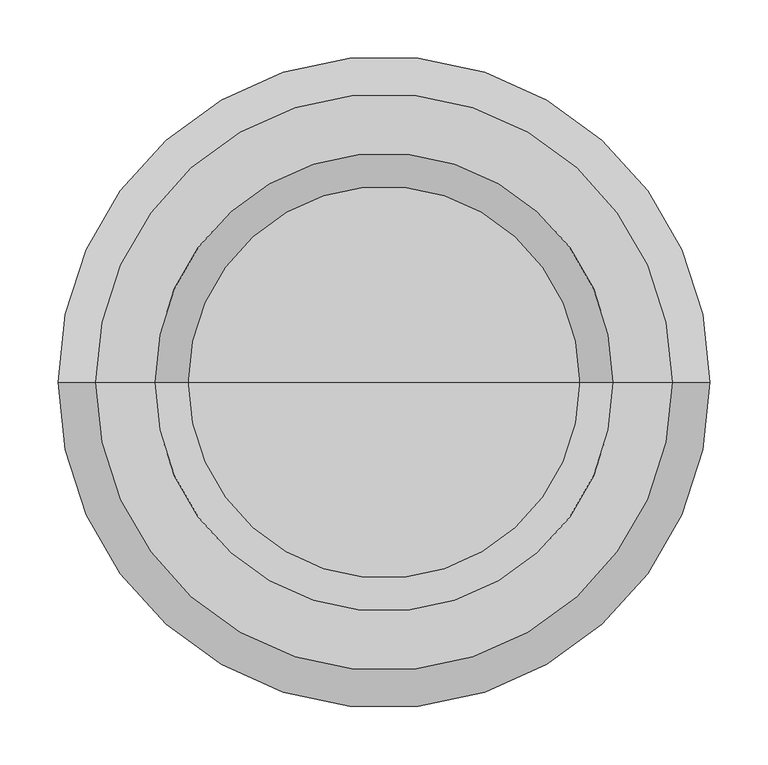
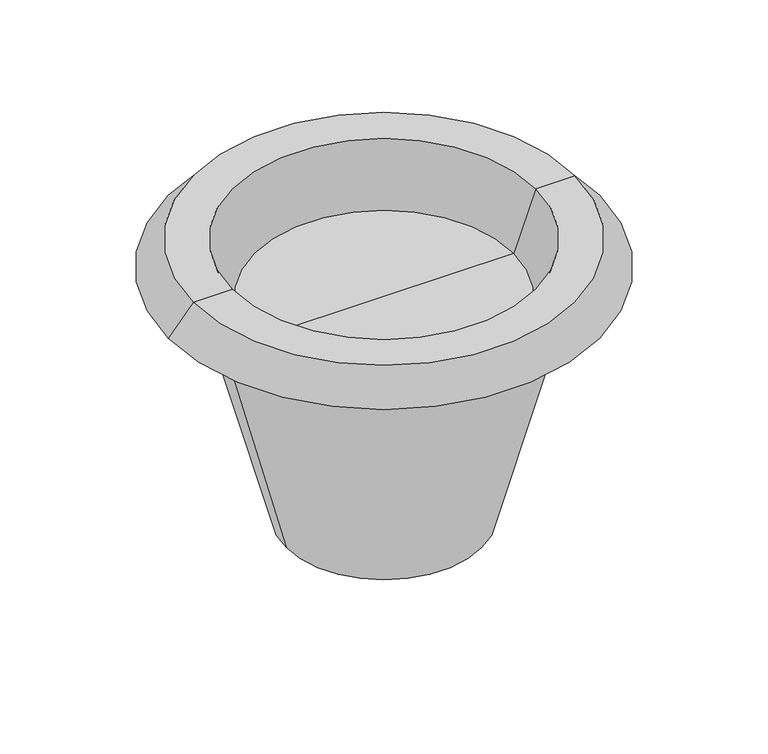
"""IFC4 building model written with IfcOpenShell, lengths in millimetres: geographic element geometry, 盆栽7 3D : 苏铁."""

from ifc_helpers import new_model, si_unit, frame, origin, origin_with_axes, place, context, project, spatial, polyline, circle_curve, source, transform, mapped, element, save
from ifc_brep_helpers import plane_surface, revolved_surface, advanced_brep


def geographic_element_97671add(model_context):
    return source(origin(), model_context, "Body", "AdvancedBrep", [
        advanced_brep(
        [(-222.3663539, 0.0, 355.912078), (222.3663539, 0.0, 355.912078), (127.0, 0.0, 0.0), (-127.0, 0.0, 0.0), (-247.7663539, 0.0, 355.912078), (247.7663539, 0.0, 355.912078), (-256.4536655, 0.0, 332.0438855), (256.4536655, 0.0, 332.0438855), (-279.77076, 0.0, 340.5306138), (279.77076, 0.0, 340.5306138), (-247.7663539, 0.0, 378.6719797), (247.7663539, 0.0, 378.6719797), (-196.9663539, 0.0, 378.6719797), (196.9663539, 0.0, 378.6719797), (-168.3196163, 0.0, 299.9657149), (168.3196163, 0.0, 299.9657149), (0.0, 0.0, 299.9657149), (0.0, 0.0, 0.0)],
        [
            (0, 1, circle_curve(frame((0.0, 0.0, 355.912078), z_axis=(0.0, 0.0, -1.0), x_axis=(1.0, 0.0, 0.0)), 222.3663539)),
            (1, 2),
            (2, 3, circle_curve(origin_with_axes(), 127.0)),
            (3, 0),
            (1, 0, circle_curve(frame((0.0, 0.0, 355.912078), z_axis=(0.0, 0.0, -1.0), x_axis=(1.0, 0.0, 0.0)), 222.3663539)),
            (3, 2, circle_curve(origin_with_axes(), 127.0)),
            (4, 5, circle_curve(frame((0.0, 0.0, 355.912078), z_axis=(0.0, 0.0, -1.0), x_axis=(1.0, 0.0, 0.0)), 247.7663539)),
            (5, 1),
            (0, 4),
            (5, 4, circle_curve(frame((0.0, 0.0, 355.912078), z_axis=(0.0, 0.0, -1.0), x_axis=(1.0, 0.0, 0.0)), 247.7663539)),
            (6, 7, circle_curve(frame((0.0, 0.0, 332.0438855), z_axis=(0.0, 0.0, -1.0), x_axis=(1.0, 0.0, 0.0)), 256.4536655)),
            (7, 5),
            (4, 6),
            (7, 6, circle_curve(frame((0.0, 0.0, 332.0438855), z_axis=(0.0, 0.0, -1.0), x_axis=(1.0, 0.0, 0.0)), 256.4536655)),
            (8, 9, circle_curve(frame((0.0, 0.0, 340.5306138), z_axis=(0.0, 0.0, -1.0), x_axis=(1.0, 0.0, 0.0)), 279.77076)),
            (9, 7),
            (6, 8),
            (9, 8, circle_curve(frame((0.0, 0.0, 340.5306138), z_axis=(0.0, 0.0, -1.0), x_axis=(1.0, 0.0, 0.0)), 279.77076)),
            (10, 11, circle_curve(frame((0.0, 0.0, 378.6719797), z_axis=(0.0, 0.0, -1.0), x_axis=(1.0, 0.0, 0.0)), 247.7663539)),
            (11, 9),
            (8, 10),
            (11, 10, circle_curve(frame((0.0, 0.0, 378.6719797), z_axis=(0.0, 0.0, -1.0), x_axis=(1.0, 0.0, 0.0)), 247.7663539)),
            (12, 13, circle_curve(frame((0.0, 0.0, 378.6719797), z_axis=(0.0, 0.0, -1.0), x_axis=(1.0, 0.0, 0.0)), 196.9663539)),
            (13, 11),
            (10, 12),
            (13, 12, circle_curve(frame((0.0, 0.0, 378.6719797), z_axis=(0.0, 0.0, -1.0), x_axis=(1.0, 0.0, 0.0)), 196.9663539)),
            (14, 15, circle_curve(frame((0.0, 0.0, 299.9657149), z_axis=(0.0, 0.0, -1.0), x_axis=(1.0, 0.0, 0.0)), 168.3196163)),
            (15, 13),
            (12, 14),
            (15, 14, circle_curve(frame((0.0, 0.0, 299.9657149), z_axis=(0.0, 0.0, -1.0), x_axis=(1.0, 0.0, 0.0)), 168.3196163)),
            (16, 15),
            (14, 16),
            (2, 17),
            (17, 3),
        ],
        [
            revolved_surface(polyline([(127.0, 0.0, 0.0), (222.3663539, 0.0, 355.912078)]), (0.0, 0.0, 330.512078), (0.0, 0.0, 1.0)),
            plane_surface(frame((0.0, 0.0, 355.912078), z_axis=(0.0, 0.0, -1.0), x_axis=(1.0, 0.0, 0.0))),
            revolved_surface(polyline([(247.7663539, 0.0, 355.912078), (256.4536655, 0.0, 332.0438855)]), (0.0, 0.0, 330.512078), (0.0, 0.0, 1.0)),
            revolved_surface(polyline([(256.4536655, 0.0, 332.0438855), (279.77076, 0.0, 340.5306138)]), (0.0, 0.0, 330.512078), (0.0, 0.0, 1.0)),
            revolved_surface(polyline([(279.77076, 0.0, 340.5306138), (247.7663539, 0.0, 378.6719797)]), (0.0, 0.0, 330.512078), (0.0, 0.0, 1.0)),
            plane_surface(frame((0.0, 0.0, 378.6719797), z_axis=(0.0, 0.0, 1.0), x_axis=(1.0, 0.0, 0.0))),
            revolved_surface(polyline([(196.9663539, 0.0, 378.6719797), (168.3196163, 0.0, 299.9657149)]), (0.0, 0.0, 330.512078), (0.0, 0.0, 1.0)),
            plane_surface(frame((0.0, 0.0, 299.9657149), z_axis=(0.0, 0.0, 1.0), x_axis=(1.0, 0.0, 0.0))),
            plane_surface(frame((0.0, 0.0, 0.0), z_axis=(0.0, 0.0, -1.0), x_axis=(1.0, 0.0, 0.0))),
        ],
        [
            (0, [[1, 2, 3, 4]]),
            (0, [[5, -4, 6, -2]]),
            (1, [[7, 8, -1, 9]]),
            (1, [[10, -9, -5, -8]]),
            (2, [[11, 12, -7, 13]]),
            (2, [[14, -13, -10, -12]]),
            (3, [[15, 16, -11, 17]]),
            (3, [[18, -17, -14, -16]]),
            (4, [[19, 20, -15, 21]]),
            (4, [[22, -21, -18, -20]]),
            (5, [[23, 24, -19, 25]]),
            (5, [[26, -25, -22, -24]]),
            (6, [[27, 28, -23, 29]]),
            (6, [[30, -29, -26, -28]]),
            (7, [[31, -27, 32]]),
            (7, [[-32, -30, -31]]),
            (8, [[-3, 33, 34]]),
            (8, [[-6, -34, -33]]),
        ],
    ),
    ])


if __name__ == "__main__":
    model = new_model("IFC4")
    model_context = context("Model", 3, world=origin())
    ifc_project = project(units=[si_unit("LENGTHUNIT", "METRE", prefix="MILLI")], contexts=[model_context])
    site = spatial("IfcSite", under=ifc_project)
    building = spatial("IfcBuilding", under=site)
    placement = place(None, origin())
    geographic_element_shape = geographic_element_97671add(model_context)
    element("IfcGeographicElement", 1, ObjectType="盆栽7 3D : 苏铁", at=placement, inside=building, context=model_context, shape_type="MappedRepresentation", body=[
        mapped(geographic_element_shape, transform((0.0, 0.0, 0.0), x_axis=(1.0, 0.0, 0.0), y_axis=(0.0, 1.0, 0.0), z_axis=(0.0, 0.0, 1.0))),
    ])
    save(model, "model.ifc")
